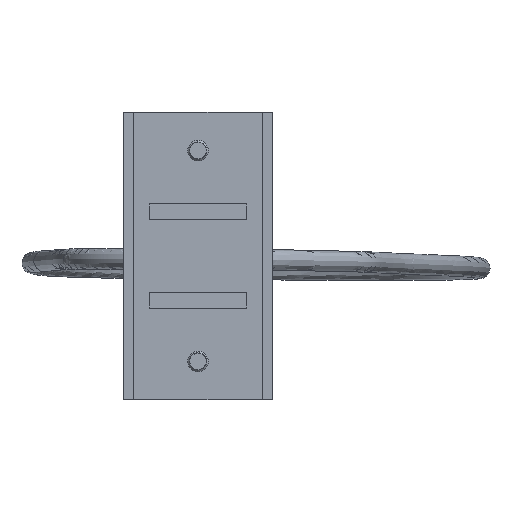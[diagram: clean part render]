
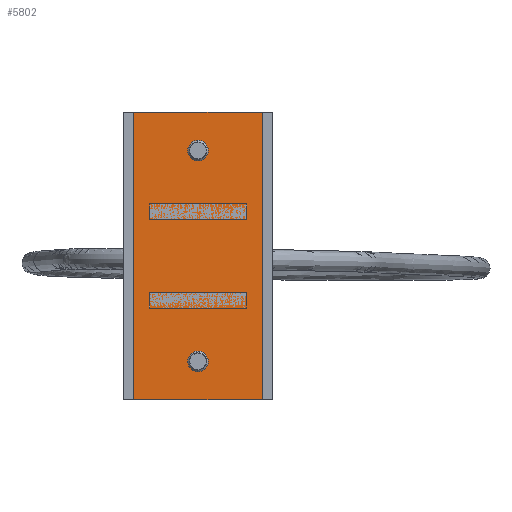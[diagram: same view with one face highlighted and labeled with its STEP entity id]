
A CAD part, front view. The second image highlights one B-rep face of the part: STEP entity #5802.
In plain terms, the highlighted planar face has unit normal (0, -1, 0).
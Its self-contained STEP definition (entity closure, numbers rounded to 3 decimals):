
#59 = CARTESIAN_POINT ( 'NONE',  ( 25.6, -17., 97. ) ) ;
#287 = EDGE_LOOP ( 'NONE', ( #320, #638 ) ) ;
#291 = DIRECTION ( 'NONE',  ( 1., 0., 0. ) ) ;
#320 = ORIENTED_EDGE ( 'NONE', *, *, #2443, .T. ) ;
#354 = VECTOR ( 'NONE', #1683, 1000. ) ;
#424 = CIRCLE ( 'NONE', #881, 3.4 ) ;
#433 = CARTESIAN_POINT ( 'NONE',  ( 4., -17., 0. ) ) ;
#440 = CARTESIAN_POINT ( 'NONE',  ( 54., -17., 0. ) ) ;
#537 = AXIS2_PLACEMENT_3D ( 'NONE', #1487, #3294, #2388 ) ;
#638 = ORIENTED_EDGE ( 'NONE', *, *, #4440, .T. ) ;
#651 = DIRECTION ( 'NONE',  ( 0., 0., -1. ) ) ;
#680 = CARTESIAN_POINT ( 'NONE',  ( 4., -17., 112. ) ) ;
#681 = VERTEX_POINT ( 'NONE', #3233 ) ;
#709 = CIRCLE ( 'NONE', #5193, 3.4 ) ;
#717 = CARTESIAN_POINT ( 'NONE',  ( 29., -17., 15. ) ) ;
#881 = AXIS2_PLACEMENT_3D ( 'NONE', #1688, #1643, #291 ) ;
#896 = ORIENTED_EDGE ( 'NONE', *, *, #3007, .F. ) ;
#1163 = CARTESIAN_POINT ( 'NONE',  ( 29., -17., 97. ) ) ;
#1200 = AXIS2_PLACEMENT_3D ( 'NONE', #4022, #1738, #4078 ) ;
#1263 = ORIENTED_EDGE ( 'NONE', *, *, #3928, .F. ) ;
#1318 = ORIENTED_EDGE ( 'NONE', *, *, #1634, .F. ) ;
#1487 = CARTESIAN_POINT ( 'NONE',  ( 29., -17., 56. ) ) ;
#1550 = CARTESIAN_POINT ( 'NONE',  ( 4., -17., 112. ) ) ;
#1595 = DIRECTION ( 'NONE',  ( 0., 0., 1. ) ) ;
#1634 = EDGE_CURVE ( 'NONE', #2592, #3915, #3289, .T. ) ;
#1643 = DIRECTION ( 'NONE',  ( 0., 1., 0. ) ) ;
#1683 = DIRECTION ( 'NONE',  ( 1., 0., 0. ) ) ;
#1688 = CARTESIAN_POINT ( 'NONE',  ( 29., -17., 15. ) ) ;
#1692 = AXIS2_PLACEMENT_3D ( 'NONE', #1163, #2453, #5207 ) ;
#1738 = DIRECTION ( 'NONE',  ( 0., 1., 0. ) ) ;
#1759 = VERTEX_POINT ( 'NONE', #59 ) ;
#1895 = EDGE_CURVE ( 'NONE', #4444, #2592, #5667, .T. ) ;
#2388 = DIRECTION ( 'NONE',  ( -1., 0., 0. ) ) ;
#2443 = EDGE_CURVE ( 'NONE', #3179, #681, #424, .T. ) ;
#2449 = FACE_BOUND ( 'NONE', #287, .T. ) ;
#2453 = DIRECTION ( 'NONE',  ( 0., 1., 0. ) ) ;
#2592 = VERTEX_POINT ( 'NONE', #440 ) ;
#2872 = VERTEX_POINT ( 'NONE', #680 ) ;
#2962 = ORIENTED_EDGE ( 'NONE', *, *, #3102, .T. ) ;
#3007 = EDGE_CURVE ( 'NONE', #3915, #2872, #3654, .T. ) ;
#3102 = EDGE_CURVE ( 'NONE', #1759, #5241, #3664, .T. ) ;
#3179 = VERTEX_POINT ( 'NONE', #3848 ) ;
#3233 = CARTESIAN_POINT ( 'NONE',  ( 25.6, -17., 15. ) ) ;
#3238 = DIRECTION ( 'NONE',  ( -1., 0., 0. ) ) ;
#3289 = LINE ( 'NONE', #433, #4368 ) ;
#3294 = DIRECTION ( 'NONE',  ( 0., -1., 0. ) ) ;
#3349 = CARTESIAN_POINT ( 'NONE',  ( 54., -17., 0. ) ) ;
#3356 = LINE ( 'NONE', #4003, #354 ) ;
#3395 = CARTESIAN_POINT ( 'NONE',  ( 32.4, -17., 97. ) ) ;
#3445 = VECTOR ( 'NONE', #651, 1000. ) ;
#3526 = FACE_BOUND ( 'NONE', #4250, .T. ) ;
#3595 = VECTOR ( 'NONE', #1595, 1000. ) ;
#3654 = LINE ( 'NONE', #1550, #3595 ) ;
#3664 = CIRCLE ( 'NONE', #1200, 3.4 ) ;
#3759 = CIRCLE ( 'NONE', #1692, 3.4 ) ;
#3848 = CARTESIAN_POINT ( 'NONE',  ( 32.4, -17., 15. ) ) ;
#3915 = VERTEX_POINT ( 'NONE', #4889 ) ;
#3917 = DIRECTION ( 'NONE',  ( 0., 1., 0. ) ) ;
#3928 = EDGE_CURVE ( 'NONE', #2872, #4444, #3356, .T. ) ;
#4003 = CARTESIAN_POINT ( 'NONE',  ( 54., -17., 112. ) ) ;
#4022 = CARTESIAN_POINT ( 'NONE',  ( 29., -17., 97. ) ) ;
#4078 = DIRECTION ( 'NONE',  ( 1., 0., 0. ) ) ;
#4100 = EDGE_LOOP ( 'NONE', ( #4833, #1263, #896, #1318 ) ) ;
#4250 = EDGE_LOOP ( 'NONE', ( #4751, #2962 ) ) ;
#4368 = VECTOR ( 'NONE', #3238, 1000. ) ;
#4440 = EDGE_CURVE ( 'NONE', #681, #3179, #709, .T. ) ;
#4444 = VERTEX_POINT ( 'NONE', #4804 ) ;
#4751 = ORIENTED_EDGE ( 'NONE', *, *, #5940, .T. ) ;
#4804 = CARTESIAN_POINT ( 'NONE',  ( 54., -17., 112. ) ) ;
#4833 = ORIENTED_EDGE ( 'NONE', *, *, #1895, .F. ) ;
#4837 = DIRECTION ( 'NONE',  ( 1., 0., 0. ) ) ;
#4889 = CARTESIAN_POINT ( 'NONE',  ( 4., -17., 0. ) ) ;
#4890 = FACE_OUTER_BOUND ( 'NONE', #4100, .T. ) ;
#5193 = AXIS2_PLACEMENT_3D ( 'NONE', #717, #3917, #4837 ) ;
#5207 = DIRECTION ( 'NONE',  ( 1., 0., 0. ) ) ;
#5241 = VERTEX_POINT ( 'NONE', #3395 ) ;
#5538 = PLANE ( 'NONE',  #537 ) ;
#5667 = LINE ( 'NONE', #3349, #3445 ) ;
#5802 = ADVANCED_FACE ( 'NONE', ( #4890, #2449, #3526 ), #5538, .T. ) ;
#5940 = EDGE_CURVE ( 'NONE', #5241, #1759, #3759, .T. ) ;
